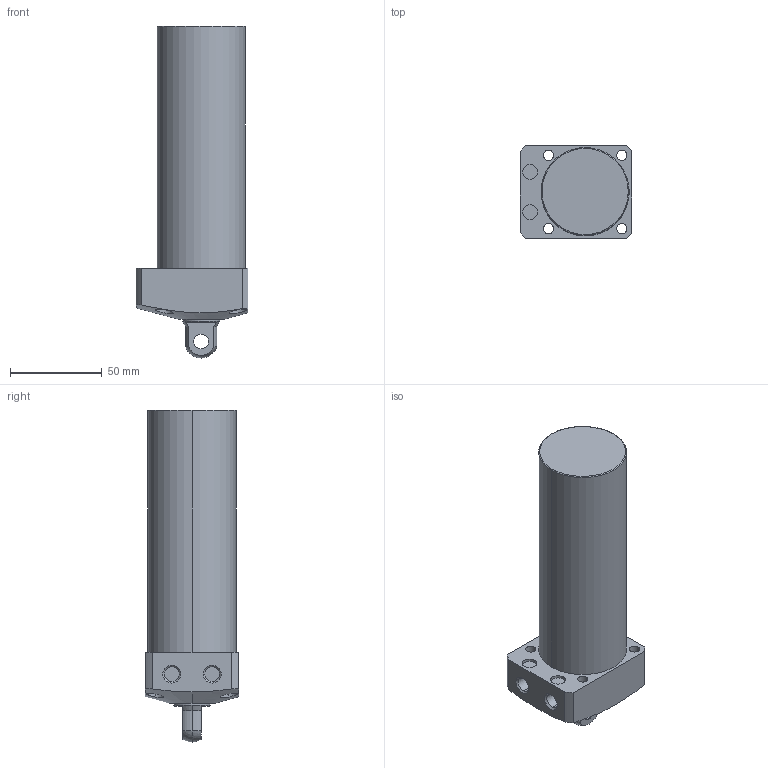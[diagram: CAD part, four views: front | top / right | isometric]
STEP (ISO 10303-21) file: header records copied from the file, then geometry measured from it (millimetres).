
FILE_DESCRIPTION (( 'STEP AP203' ), '1' );
FILE_NAME ('CLL-048CP-105.STEP', '2019-12-21T06:54:51', ( '' ), ( '' ), 'SwSTEP 2.0', 'SolidWorks 2015', '' );
FILE_SCHEMA (( 'CONFIG_CONTROL_DESIGN' ));
Length unit declared in the file: millimetre
Products named in the file (1): CLL-048CP-105
Bounding box: 61 x 51 x 181 mm (x, y, z)
Volume: 314199.5 mm3; surface area: 34724.6 mm2
Topology: 1 solids, 1 shells, 68 faces, 159 edges, 103 vertices
Faces by surface type: cylinder 35, plane 21, cone 8, sphere 2, torus 2
Entity records: 2390 total; most frequent: CARTESIAN_POINT 693, DIRECTION 357, ORIENTED_EDGE 318, EDGE_CURVE 159, AXIS2_PLACEMENT_3D 149, VERTEX_POINT 103, EDGE_LOOP 88, CIRCLE 80
